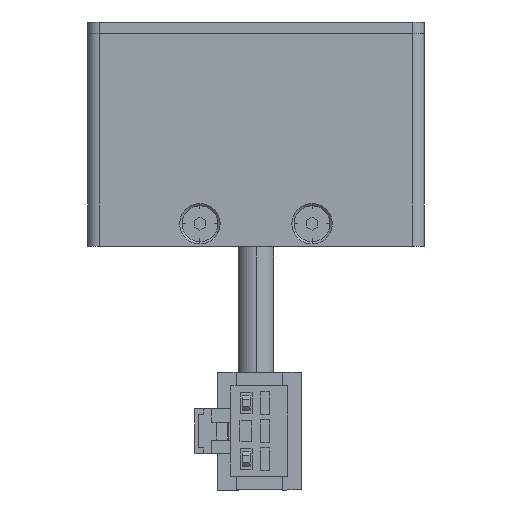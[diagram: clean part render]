
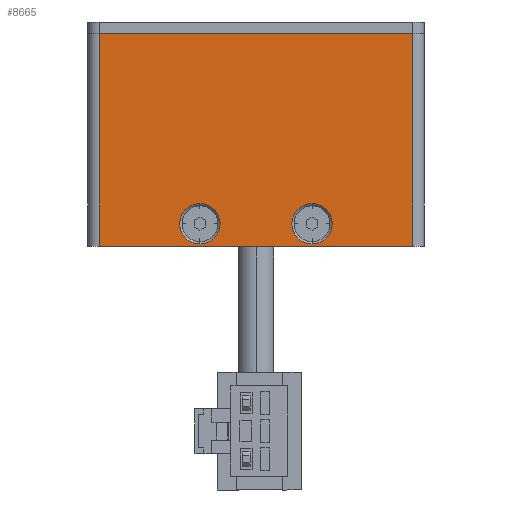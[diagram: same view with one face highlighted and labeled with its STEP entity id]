
A CAD part, front view. The second image highlights one B-rep face of the part: STEP entity #8665.
In plain terms, the highlighted planar face has unit normal (0, -1, 0).
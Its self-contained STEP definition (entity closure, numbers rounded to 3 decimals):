
#122 = EDGE_LOOP ( 'NONE', ( #9557, #5299, #12024, #11063 ) ) ;
#133 = FACE_BOUND ( 'NONE', #5860, .T. ) ;
#363 = ORIENTED_EDGE ( 'NONE', *, *, #10744, .F. ) ;
#510 = CIRCLE ( 'NONE', #1521, 1.8 ) ;
#890 = VERTEX_POINT ( 'NONE', #7695 ) ;
#918 = DIRECTION ( 'NONE',  ( 0., 0., -1. ) ) ;
#1160 = DIRECTION ( 'NONE',  ( 0., 0., -1. ) ) ;
#1179 = EDGE_CURVE ( 'NONE', #4499, #7823, #5497, .T. ) ;
#1246 = CARTESIAN_POINT ( 'NONE',  ( -15., -4.25, 19. ) ) ;
#1521 = AXIS2_PLACEMENT_3D ( 'NONE', #4981, #5672, #918 ) ;
#1618 = AXIS2_PLACEMENT_3D ( 'NONE', #7011, #2015, #8945 ) ;
#1707 = VECTOR ( 'NONE', #12104, 1000. ) ;
#1788 = DIRECTION ( 'NONE',  ( 0., -1., 0. ) ) ;
#1805 = CARTESIAN_POINT ( 'NONE',  ( -14., -4.25, 19. ) ) ;
#1822 = ORIENTED_EDGE ( 'NONE', *, *, #3999, .F. ) ;
#1845 = CARTESIAN_POINT ( 'NONE',  ( -5., -4.25, 2. ) ) ;
#1854 = DIRECTION ( 'NONE',  ( 0., -1., 0. ) ) ;
#1957 = EDGE_CURVE ( 'NONE', #3584, #2803, #510, .T. ) ;
#2004 = CIRCLE ( 'NONE', #5010, 1.8 ) ;
#2015 = DIRECTION ( 'NONE',  ( 0., 1., 0. ) ) ;
#2325 = AXIS2_PLACEMENT_3D ( 'NONE', #7779, #11571, #1160 ) ;
#2463 = CARTESIAN_POINT ( 'NONE',  ( -14., -4.25, 0. ) ) ;
#2703 = CARTESIAN_POINT ( 'NONE',  ( -15., -4.25, 0. ) ) ;
#2803 = VERTEX_POINT ( 'NONE', #10229 ) ;
#2910 = DIRECTION ( 'NONE',  ( 0., 0., -1. ) ) ;
#2989 = VERTEX_POINT ( 'NONE', #5754 ) ;
#3584 = VERTEX_POINT ( 'NONE', #6617 ) ;
#3706 = LINE ( 'NONE', #2703, #10766 ) ;
#3999 = EDGE_CURVE ( 'NONE', #11401, #2989, #6117, .T. ) ;
#4139 = FACE_BOUND ( 'NONE', #10611, .T. ) ;
#4499 = VERTEX_POINT ( 'NONE', #10201 ) ;
#4904 = PLANE ( 'NONE',  #1618 ) ;
#4981 = CARTESIAN_POINT ( 'NONE',  ( -5., -4.25, 2. ) ) ;
#5010 = AXIS2_PLACEMENT_3D ( 'NONE', #1845, #1788, #2910 ) ;
#5299 = ORIENTED_EDGE ( 'NONE', *, *, #8507, .T. ) ;
#5497 = LINE ( 'NONE', #1805, #1707 ) ;
#5566 = ORIENTED_EDGE ( 'NONE', *, *, #1957, .F. ) ;
#5672 = DIRECTION ( 'NONE',  ( 0., -1., 0. ) ) ;
#5754 = CARTESIAN_POINT ( 'NONE',  ( 5., -4.25, 0.2 ) ) ;
#5860 = EDGE_LOOP ( 'NONE', ( #7109, #5566 ) ) ;
#5908 = EDGE_CURVE ( 'NONE', #4499, #7179, #7053, .T. ) ;
#6117 = CIRCLE ( 'NONE', #6905, 1.8 ) ;
#6617 = CARTESIAN_POINT ( 'NONE',  ( -5., -4.25, 3.8 ) ) ;
#6887 = FACE_OUTER_BOUND ( 'NONE', #122, .T. ) ;
#6905 = AXIS2_PLACEMENT_3D ( 'NONE', #11394, #1854, #8725 ) ;
#7011 = CARTESIAN_POINT ( 'NONE',  ( -15., -4.25, 19. ) ) ;
#7053 = LINE ( 'NONE', #1246, #11326 ) ;
#7109 = ORIENTED_EDGE ( 'NONE', *, *, #7943, .F. ) ;
#7179 = VERTEX_POINT ( 'NONE', #12028 ) ;
#7695 = CARTESIAN_POINT ( 'NONE',  ( 14., -4.25, 0. ) ) ;
#7732 = CIRCLE ( 'NONE', #2325, 1.8 ) ;
#7779 = CARTESIAN_POINT ( 'NONE',  ( 5., -4.25, 2. ) ) ;
#7822 = CARTESIAN_POINT ( 'NONE',  ( 14., -4.25, 19. ) ) ;
#7823 = VERTEX_POINT ( 'NONE', #2463 ) ;
#7943 = EDGE_CURVE ( 'NONE', #2803, #3584, #2004, .T. ) ;
#8335 = VECTOR ( 'NONE', #9694, 1000. ) ;
#8507 = EDGE_CURVE ( 'NONE', #7823, #890, #3706, .T. ) ;
#8665 = ADVANCED_FACE ( 'NONE', ( #133, #4139, #6887 ), #4904, .F. ) ;
#8725 = DIRECTION ( 'NONE',  ( 0., 0., -1. ) ) ;
#8945 = DIRECTION ( 'NONE',  ( 0., 0., 1. ) ) ;
#9557 = ORIENTED_EDGE ( 'NONE', *, *, #1179, .T. ) ;
#9694 = DIRECTION ( 'NONE',  ( 0., 0., 1. ) ) ;
#10201 = CARTESIAN_POINT ( 'NONE',  ( -14., -4.25, 19. ) ) ;
#10229 = CARTESIAN_POINT ( 'NONE',  ( -5., -4.25, 0.2 ) ) ;
#10439 = DIRECTION ( 'NONE',  ( 1., 0., 0. ) ) ;
#10611 = EDGE_LOOP ( 'NONE', ( #363, #1822 ) ) ;
#10744 = EDGE_CURVE ( 'NONE', #2989, #11401, #7732, .T. ) ;
#10766 = VECTOR ( 'NONE', #10439, 1000. ) ;
#11063 = ORIENTED_EDGE ( 'NONE', *, *, #5908, .F. ) ;
#11104 = CARTESIAN_POINT ( 'NONE',  ( 5., -4.25, 3.8 ) ) ;
#11312 = EDGE_CURVE ( 'NONE', #890, #7179, #11619, .T. ) ;
#11326 = VECTOR ( 'NONE', #11601, 1000. ) ;
#11394 = CARTESIAN_POINT ( 'NONE',  ( 5., -4.25, 2. ) ) ;
#11401 = VERTEX_POINT ( 'NONE', #11104 ) ;
#11571 = DIRECTION ( 'NONE',  ( 0., -1., 0. ) ) ;
#11601 = DIRECTION ( 'NONE',  ( 1., 0., 0. ) ) ;
#11619 = LINE ( 'NONE', #7822, #8335 ) ;
#12024 = ORIENTED_EDGE ( 'NONE', *, *, #11312, .T. ) ;
#12028 = CARTESIAN_POINT ( 'NONE',  ( 14., -4.25, 19. ) ) ;
#12104 = DIRECTION ( 'NONE',  ( 0., 0., -1. ) ) ;
